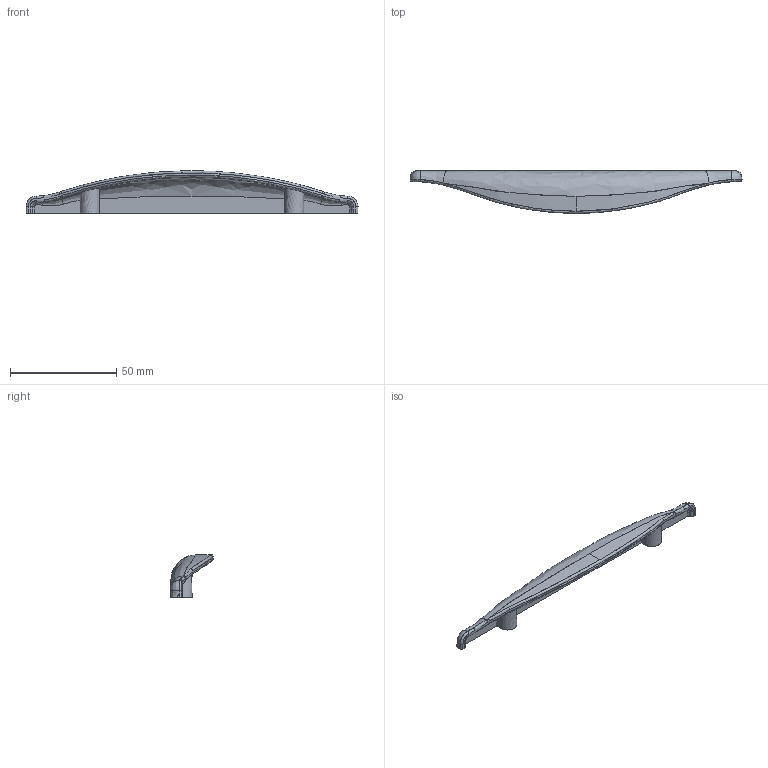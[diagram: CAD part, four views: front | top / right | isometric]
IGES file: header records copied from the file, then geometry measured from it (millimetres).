
Start section: C
Global section: file name: SA59-156.igs; native system: By Siemens PLM Incorporated; preprocessor: XPlus GENERIC/IGES 16.0.42; author: Author; organization: Title; date: 20210505.105901; units: millimetre
Bounding box: 156 x 19.91 x 20 mm (x, y, z)
Surface area: 8232.8 mm2 (no closed solid volume)
Topology: 0 solids, 0 shells, 79 faces, 482 edges, 482 vertices
Faces by surface type: bspline 79
